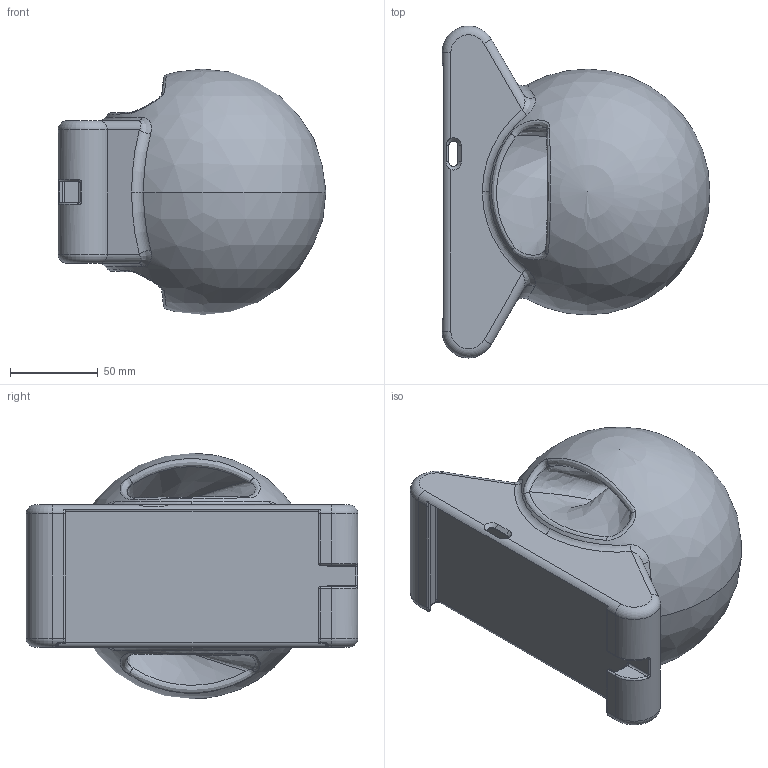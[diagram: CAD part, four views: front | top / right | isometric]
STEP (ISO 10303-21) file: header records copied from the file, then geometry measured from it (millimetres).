
FILE_DESCRIPTION (( 'STEP AP214' ), '1' );
FILE_NAME ('Ball Stand Part 1.STEP', '2015-02-26T09:35:29', ( '' ), ( '' ), 'SwSTEP 2.0', 'SolidWorks 2014', '' );
FILE_SCHEMA (( 'AUTOMOTIVE_DESIGN' ));
Length unit declared in the file: millimetre
Products named in the file (1): Ball Stand Part 1
Bounding box: 152.55 x 189 x 140 mm (x, y, z)
Volume: 1527449.1 mm3; surface area: 117451.8 mm2
Topology: 1 solids, 1 shells, 160 faces, 440 edges, 271 vertices
Faces by surface type: cylinder 53, plane 36, torus 29, bspline 28, sphere 8, cone 6
Entity records: 9640 total; most frequent: CARTESIAN_POINT 5850, ORIENTED_EDGE 854, DIRECTION 720, EDGE_CURVE 427, AXIS2_PLACEMENT_3D 291, VERTEX_POINT 268, EDGE_LOOP 165, ADVANCED_FACE 160
